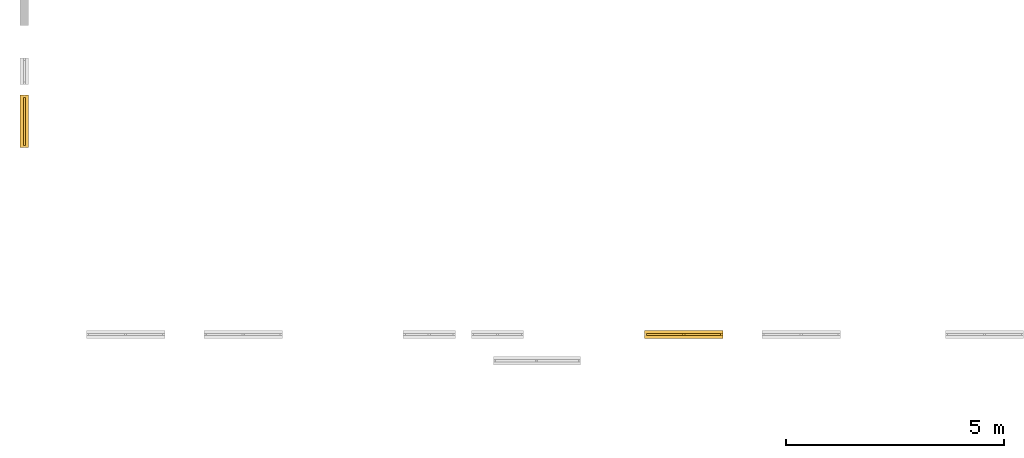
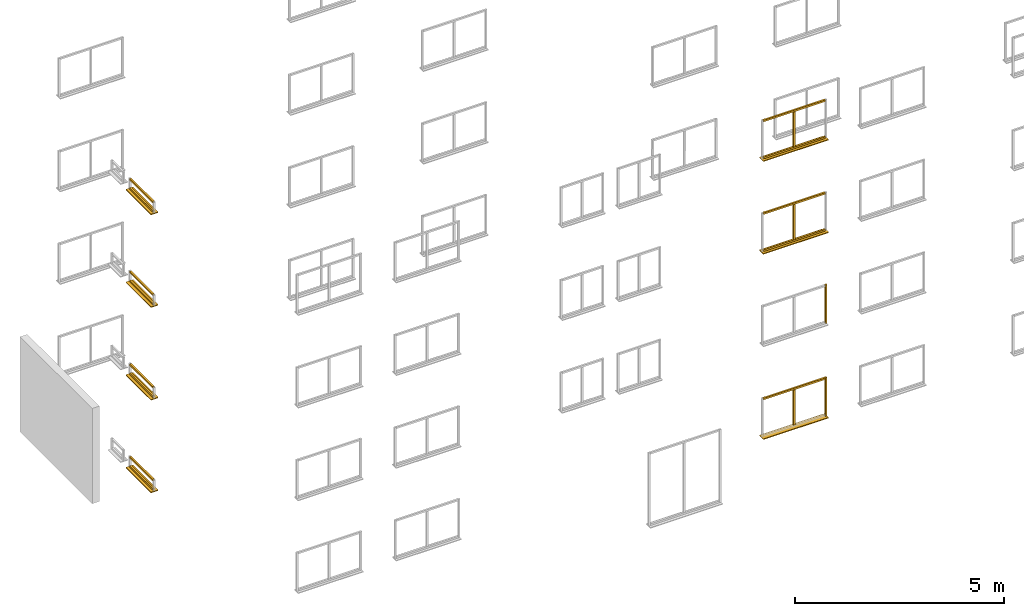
# Not in any storey, part 4 of 22: 25 windows.
"""IFC2X3 model written with IfcOpenShell, lengths in metres."""

import ifcopenshell
import ifcopenshell.guid

model = None  # the IFC model being written
_history = None  # IfcOwnerHistory: only IFC2X3 demands one
_inside = {}  # id of a spatial element -> (the spatial element, [elements in it])
_under = {}  # id of a project, library or spatial element -> (it, [spatial elements below it])
_declared = {}  # id of a project -> (the project, [libraries it declares])
_typed = {}  # id of a type object -> (the type object, [elements of that type])
_made_of = {}  # id of a material, layer set ... -> (it, [elements and type objects made of it])


def new_model(schema):
    """Start an empty IFC model of exactly this schema.

    Asked for "IFC4X3", IfcOpenShell would pick the latest addendum, in which some entities
    have other attributes; the version numbers below select the first issue.
    IFC2X3 requires an IfcOwnerHistory on every rooted entity: one is made here for all.
    """
    global model, _history
    if schema == "IFC4X3":
        model = ifcopenshell.file(schema_version=(4, 3, 0, 0))
    else:
        model = ifcopenshell.file(schema=schema)
    _inside.clear()
    _under.clear()
    _declared.clear()
    _typed.clear()
    _made_of.clear()
    _history = None
    if model.schema == "IFC2X3":
        org = make("IfcOrganization", Name="unknown")
        user = make(
            "IfcPersonAndOrganization",
            ThePerson=make("IfcPerson", FamilyName="unknown"),
            TheOrganization=org,
        )
        app = make(
            "IfcApplication",
            ApplicationDeveloper=org,
            Version="unknown",
            ApplicationFullName="unknown",
            ApplicationIdentifier="unknown",
        )
        _history = make(
            "IfcOwnerHistory",
            OwningUser=user,
            OwningApplication=app,
            ChangeAction="ADDED",
            CreationDate=0,
        )
    return model


def make(cls, **values):
    """One entity of the class cls with the attributes given. An attribute that is None is left unset."""
    return model.create_entity(
        cls, **{name: value for name, value in values.items() if value is not None}
    )


def rooted(cls, **values):
    """An entity with a GlobalId (a new one), such as an element, a storey or a relation."""
    return make(cls, GlobalId=ifcopenshell.guid.new(), OwnerHistory=_history, **values)


def si_unit(unit_type, name, prefix=None):
    """IfcSIUnit, for example si_unit("LENGTHUNIT", "METRE", prefix="MILLI")."""
    return make("IfcSIUnit", UnitType=unit_type, Prefix=prefix, Name=name)


def assignment(units):
    """IfcUnitAssignment: the units of a project."""
    return None if units is None else make("IfcUnitAssignment", Units=units)


def point(xyz):
    """IfcCartesianPoint."""
    return None if xyz is None else make("IfcCartesianPoint", Coordinates=xyz)


def direction(xyz):
    """IfcDirection."""
    return None if xyz is None else make("IfcDirection", DirectionRatios=xyz)


def frame(location, z_axis=None, x_axis=None):
    """IfcAxis2Placement3D, a coordinate frame: its origin and axes. An axis left out is left unset."""
    return make(
        "IfcAxis2Placement3D",
        Location=point(location),
        Axis=direction(z_axis),
        RefDirection=direction(x_axis),
    )


def origin():
    """The frame at (0, 0, 0) with its axes left unset."""
    return frame((0.0, 0.0, 0.0))


def place(relative_to, where):
    """IfcLocalPlacement: puts the frame where relative to a parent placement (None: the world)."""
    return make(
        "IfcLocalPlacement", PlacementRelTo=relative_to, RelativePlacement=where
    )


def context(
    kind, dimensions, precision=None, world=None, true_north=None, identifier=None
):
    """IfcGeometricRepresentationContext, for example the 3D "Model" context."""
    return make(
        "IfcGeometricRepresentationContext",
        ContextIdentifier=identifier,
        ContextType=kind,
        CoordinateSpaceDimension=dimensions,
        Precision=precision,
        WorldCoordinateSystem=world,
        TrueNorth=true_north,
    )


def project(units=None, contexts=None):
    """IfcProject with its units and contexts."""
    return rooted(
        "IfcProject",
        Name="project",
        RepresentationContexts=contexts,
        UnitsInContext=assignment(units),
    )


def faces_of(points, faces, orient=None, outer=None):
    """IfcFace entities. A face is a list of loops; a loop is a list of indices into points, from 0.

    orient and outer hold one flag for each loop. By default every Orientation is true, the
    first loop of a face is its IfcFaceOuterBound and the others are IfcFaceBound.
    """
    made = []
    for i, loops in enumerate(faces):
        bounds = []
        for j, loop in enumerate(loops):
            is_outer = j == 0 if outer is None else outer[i][j]
            bounds.append(
                make(
                    "IfcFaceOuterBound" if is_outer else "IfcFaceBound",
                    Bound=make("IfcPolyLoop", Polygon=[points[k] for k in loop]),
                    Orientation=True if orient is None else orient[i][j],
                )
            )
        made.append(make("IfcFace", Bounds=bounds))
    return made


def faceted_brep(points, faces, orient=None, outer=None, voids=None):
    """IfcFacetedBrep: a solid bounded by flat faces; with voids (closed shells), ...WithVoids."""
    shared = [point(p) for p in points]
    hull = make("IfcClosedShell", CfsFaces=faces_of(shared, faces, orient, outer))
    if voids is None:
        return make("IfcFacetedBrep", Outer=hull)
    return make(
        "IfcFacetedBrepWithVoids",
        Outer=hull,
        Voids=[
            make(cls, CfsFaces=faces_of(shared, fs, o, b)) for cls, fs, o, b in voids
        ],
    )


def shape(context_of_items, identifier, shape_type, items):
    """IfcShapeRepresentation: the items that make up one representation, for example the "Body"."""
    return make(
        "IfcShapeRepresentation",
        ContextOfItems=context_of_items,
        RepresentationIdentifier=identifier,
        RepresentationType=shape_type,
        Items=items,
    )


def made_of(thing, what):
    """Note that an element or type object is made of a material, layer set ...; save() writes the relation."""
    if what is not None:
        _made_of.setdefault(what.id(), (what, []))[1].append(thing)
    return thing


def element(
    cls,
    number,
    at=None,
    inside=None,
    cuts=None,
    type_object=None,
    material=None,
    context=None,
    identifier="Body",
    shape_type=None,
    held_by="IfcProductDefinitionShape",
    body=None,
    shapes=None,
    **own,
):
    """One element of the class cls, such as IfcWall. Its Tag is "e" and its number.

    at: its placement. inside: the storey or other place that contains it. cuts: it is an
    opening in that element (IfcRelVoidsElement). A single representation is given by context,
    identifier, shape_type and body (its items); several are given by shapes. held_by: the class
    of the entity that holds the representations. save() writes the other relations.
    """
    e = rooted(cls, Tag="e%d" % number, ObjectPlacement=at, **own)
    if body is not None:
        shapes = [shape(context, identifier, shape_type, body)]
    if shapes is not None:
        e.Representation = make(held_by, Representations=shapes)
    if inside is not None:
        _inside.setdefault(inside.id(), (inside, []))[1].append(e)
    if cuts is not None:
        rooted(
            "IfcRelVoidsElement", RelatingBuildingElement=cuts, RelatedOpeningElement=e
        )
    if type_object is not None:
        _typed.setdefault(type_object.id(), (type_object, []))[1].append(e)
    return made_of(e, material)


def aggregate(whole, parts):
    """IfcRelAggregates: a whole, such as a stair, and the parts it consists of."""
    return rooted("IfcRelAggregates", RelatingObject=whole, RelatedObjects=parts)


def save(model, path):
    """Write the relations noted so far, then the file.

    IfcRelAggregates (storeys below a building ...), IfcRelContainedInSpatialStructure (elements
    in a storey), IfcRelDefinesByType, IfcRelAssociatesMaterial and IfcRelDeclares: one each for
    every whole, place, type object, material and project.
    """
    for whole, parts in _under.values():
        aggregate(whole, parts)
    for where, things in _inside.values():
        rooted(
            "IfcRelContainedInSpatialStructure",
            RelatedElements=things,
            RelatingStructure=where,
        )
    for kind, things in _typed.values():
        rooted("IfcRelDefinesByType", RelatedObjects=things, RelatingType=kind)
    for what, things in _made_of.values():
        rooted("IfcRelAssociatesMaterial", RelatedObjects=things, RelatingMaterial=what)
    for by, libraries in _declared.values():
        rooted("IfcRelDeclares", RelatingContext=by, RelatedDefinitions=libraries)
    model.write(path)


model = new_model("IFC2X3")

# Units and contexts
model_context = context("Model", 3, precision=1e-06, world=origin())
ifc_project = project(units=[si_unit("LENGTHUNIT", "METRE"), si_unit("PLANEANGLEUNIT", "RADIAN")], contexts=[model_context])

# Windows
placement = place(None, origin())
for number, where, z_axis, x_axis, name in (
    (1, (-0.12500000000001, 5.370077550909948, 1.835), (0.0, 0.0, 1.0), (0.0, -1.0, 0.0), "bottomFrame"),
    (2, (-0.12500000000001, 5.370077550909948, 2.100000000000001), (0.0, 0.0, 1.0), (0.0, -1.0, 0.0), "topFrame"),
):
    element("IfcWindow", number, at=place(placement, frame(where, z_axis=z_axis, x_axis=x_axis)), Name=name, context=model_context, shape_type="Brep", body=[
        faceted_brep([(0.0, 0.05, 0.0), (1.1, 0.05, 0.0), (1.1, 0.0, 0.0), (0.0, 0.0, 0.0), (1.1, 0.0, 0.05), (1.1, 0.05, 0.05), (0.0, 0.05, 0.05), (0.0, 0.0, 0.05), (0.0, 0.05, 0.0), (0.0, 0.0, 0.0), (0.0, 0.0, 0.05), (0.0, 0.05, 0.05), (1.1, 0.05, 0.0), (0.0, 0.05, 0.0), (0.0, 0.05, 0.05), (1.1, 0.05, 0.05), (1.1, 0.0, 0.0), (1.1, 0.05, 0.0), (1.1, 0.05, 0.05), (1.1, 0.0, 0.05), (0.0, 0.0, 0.0), (1.1, 0.0, 0.0), (1.1, 0.0, 0.05), (0.0, 0.0, 0.05)], [[[0, 1, 2, 3]], [[4, 5, 6, 7]], [[8, 9, 10, 11]], [[12, 13, 14, 15]], [[16, 17, 18, 19]], [[20, 21, 22, 23]]]),
    ])
window_1_placement = place(placement, frame((-0.20000000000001, 5.420077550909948, 1.810000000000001), z_axis=(0.0, 0.0, 1.0), x_axis=(0.0, -1.0, 0.0)))
element("IfcWindow", 3, at=window_1_placement, Name="windowSill", context=model_context, shape_type="Brep", body=[
    faceted_brep([(0.0, 0.2, 0.0), (1.2, 0.2, 0.0), (1.2, 0.0, 0.0), (0.0, 0.0, 0.0), (1.2, 0.0, 0.025), (1.2, 0.2, 0.025), (0.0, 0.2, 0.025), (0.0, 0.0, 0.025), (0.0, 0.2, 0.0), (0.0, 0.0, 0.0), (0.0, 0.0, 0.025), (0.0, 0.2, 0.025), (1.2, 0.2, 0.0), (0.0, 0.2, 0.0), (0.0, 0.2, 0.025), (1.2, 0.2, 0.025), (1.2, 0.0, 0.0), (1.2, 0.2, 0.0), (1.2, 0.2, 0.025), (1.2, 0.0, 0.025), (0.0, 0.0, 0.0), (1.2, 0.0, 0.0), (1.2, 0.0, 0.025), (0.0, 0.0, 0.025)], [[[0, 1, 2, 3]], [[4, 5, 6, 7]], [[8, 9, 10, 11]], [[12, 13, 14, 15]], [[16, 17, 18, 19]], [[20, 21, 22, 23]]]),
])
for number, where, z_axis, x_axis, name in (
    (4, (-0.12500000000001, 5.370077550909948, 4.800000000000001), (0.0, 0.0, 1.0), (0.0, -1.0, 0.0), "topFrame"),
    (5, (-0.12500000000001, 5.370077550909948, 4.535000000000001), (0.0, 0.0, 1.0), (0.0, -1.0, 0.0), "bottomFrame"),
    (6, (-0.12500000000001, 5.370077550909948, 7.500000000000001), (0.0, 0.0, 1.0), (0.0, -1.0, 0.0), "topFrame"),
    (7, (-0.12500000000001, 5.370077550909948, 9.935000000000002), (0.0, 0.0, 1.0), (0.0, -1.0, 0.0), "bottomFrame"),
):
    element("IfcWindow", number, at=place(placement, frame(where, z_axis=z_axis, x_axis=x_axis)), Name=name, context=model_context, shape_type="Brep", body=[
        faceted_brep([(0.0, 0.05, 0.0), (1.1, 0.05, 0.0), (1.1, 0.0, 0.0), (0.0, 0.0, 0.0), (1.1, 0.0, 0.05), (1.1, 0.05, 0.05), (0.0, 0.05, 0.05), (0.0, 0.0, 0.05), (0.0, 0.05, 0.0), (0.0, 0.0, 0.0), (0.0, 0.0, 0.05), (0.0, 0.05, 0.05), (1.1, 0.05, 0.0), (0.0, 0.05, 0.0), (0.0, 0.05, 0.05), (1.1, 0.05, 0.05), (1.1, 0.0, 0.0), (1.1, 0.05, 0.0), (1.1, 0.05, 0.05), (1.1, 0.0, 0.05), (0.0, 0.0, 0.0), (1.1, 0.0, 0.0), (1.1, 0.0, 0.05), (0.0, 0.0, 0.05)], [[[0, 1, 2, 3]], [[4, 5, 6, 7]], [[8, 9, 10, 11]], [[12, 13, 14, 15]], [[16, 17, 18, 19]], [[20, 21, 22, 23]]]),
    ])
for number, where, z_axis, x_axis, name in (
    (8, (-0.20000000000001, 5.420077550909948, 7.210000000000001), (0.0, 0.0, 1.0), (0.0, -1.0, 0.0), "windowSill"),
    (9, (-0.20000000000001, 5.420077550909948, 9.910000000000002), (0.0, 0.0, 1.0), (0.0, -1.0, 0.0), "windowSill"),
):
    element("IfcWindow", number, at=place(placement, frame(where, z_axis=z_axis, x_axis=x_axis)), Name=name, context=model_context, shape_type="Brep", body=[
        faceted_brep([(0.0, 0.2, 0.0), (1.2, 0.2, 0.0), (1.2, 0.0, 0.0), (0.0, 0.0, 0.0), (1.2, 0.0, 0.025), (1.2, 0.2, 0.025), (0.0, 0.2, 0.025), (0.0, 0.0, 0.025), (0.0, 0.2, 0.0), (0.0, 0.0, 0.0), (0.0, 0.0, 0.025), (0.0, 0.2, 0.025), (1.2, 0.2, 0.0), (0.0, 0.2, 0.0), (0.0, 0.2, 0.025), (1.2, 0.2, 0.025), (1.2, 0.0, 0.0), (1.2, 0.2, 0.0), (1.2, 0.2, 0.025), (1.2, 0.0, 0.025), (0.0, 0.0, 0.0), (1.2, 0.0, 0.0), (1.2, 0.0, 0.025), (0.0, 0.0, 0.025)], [[[0, 1, 2, 3]], [[4, 5, 6, 7]], [[8, 9, 10, 11]], [[12, 13, 14, 15]], [[16, 17, 18, 19]], [[20, 21, 22, 23]]]),
    ])
window_2_placement = place(placement, frame((-0.12500000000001, 5.370077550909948, 10.200000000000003), z_axis=(0.0, 0.0, 1.0), x_axis=(0.0, -1.0, 0.0)))
element("IfcWindow", 10, at=window_2_placement, Name="topFrame", context=model_context, shape_type="Brep", body=[
    faceted_brep([(0.0, 0.05, 0.0), (1.1, 0.05, 0.0), (1.1, 0.0, 0.0), (0.0, 0.0, 0.0), (1.1, 0.0, 0.05), (1.1, 0.05, 0.05), (0.0, 0.05, 0.05), (0.0, 0.0, 0.05), (0.0, 0.05, 0.0), (0.0, 0.0, 0.0), (0.0, 0.0, 0.05), (0.0, 0.05, 0.05), (1.1, 0.05, 0.0), (0.0, 0.05, 0.0), (0.0, 0.05, 0.05), (1.1, 0.05, 0.05), (1.1, 0.0, 0.0), (1.1, 0.05, 0.0), (1.1, 0.05, 0.05), (1.1, 0.0, 0.05), (0.0, 0.0, 0.0), (1.1, 0.0, 0.0), (1.1, 0.0, 0.05), (0.0, 0.0, 0.05)], [[[0, 1, 2, 3]], [[4, 5, 6, 7]], [[8, 9, 10, 11]], [[12, 13, 14, 15]], [[16, 17, 18, 19]], [[20, 21, 22, 23]]]),
])
window_3_placement = place(placement, frame((-0.20000000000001, 5.420077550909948, 4.510000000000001), z_axis=(0.0, 0.0, 1.0), x_axis=(0.0, -1.0, 0.0)))
element("IfcWindow", 11, at=window_3_placement, Name="windowSill", context=model_context, shape_type="Brep", body=[
    faceted_brep([(0.0, 0.2, 0.0), (1.2, 0.2, 0.0), (1.2, 0.0, 0.0), (0.0, 0.0, 0.0), (1.2, 0.0, 0.025), (1.2, 0.2, 0.025), (0.0, 0.2, 0.025), (0.0, 0.0, 0.025), (0.0, 0.2, 0.0), (0.0, 0.0, 0.0), (0.0, 0.0, 0.025), (0.0, 0.2, 0.025), (1.2, 0.2, 0.0), (0.0, 0.2, 0.0), (0.0, 0.2, 0.025), (1.2, 0.2, 0.025), (1.2, 0.0, 0.0), (1.2, 0.2, 0.0), (1.2, 0.2, 0.025), (1.2, 0.0, 0.025), (0.0, 0.0, 0.0), (1.2, 0.0, 0.0), (1.2, 0.0, 0.025), (0.0, 0.0, 0.025)], [[[0, 1, 2, 3]], [[4, 5, 6, 7]], [[8, 9, 10, 11]], [[12, 13, 14, 15]], [[16, 17, 18, 19]], [[20, 21, 22, 23]]]),
])
window_4_placement = place(placement, frame((-0.12500000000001, 5.370077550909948, 7.235000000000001), z_axis=(0.0, 0.0, 1.0), x_axis=(0.0, -1.0, 0.0)))
element("IfcWindow", 12, at=window_4_placement, Name="bottomFrame", context=model_context, shape_type="Brep", body=[
    faceted_brep([(0.0, 0.05, 0.0), (1.1, 0.05, 0.0), (1.1, 0.0, 0.0), (0.0, 0.0, 0.0), (1.1, 0.0, 0.05), (1.1, 0.05, 0.05), (0.0, 0.05, 0.05), (0.0, 0.0, 0.05), (0.0, 0.05, 0.0), (0.0, 0.0, 0.0), (0.0, 0.0, 0.05), (0.0, 0.05, 0.05), (1.1, 0.05, 0.0), (0.0, 0.05, 0.0), (0.0, 0.05, 0.05), (1.1, 0.05, 0.05), (1.1, 0.0, 0.0), (1.1, 0.05, 0.0), (1.1, 0.05, 0.05), (1.1, 0.0, 0.05), (0.0, 0.0, 0.0), (1.1, 0.0, 0.0), (1.1, 0.0, 0.05), (0.0, 0.0, 0.05)], [[[0, 1, 2, 3]], [[4, 5, 6, 7]], [[8, 9, 10, 11]], [[12, 13, 14, 15]], [[16, 17, 18, 19]], [[20, 21, 22, 23]]]),
])
window_5_placement = place(placement, frame((15.894999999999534, -0.098337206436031, 3.725), z_axis=(0.0, 0.0, 1.0), x_axis=(1.0, 0.0, 0.0)))
element("IfcWindow", 13, at=window_5_placement, Name="rightFrame", context=model_context, shape_type="Brep", body=[
    faceted_brep([(0.0, 0.05, 0.0), (0.05, 0.05, 0.0), (0.05, 0.0, 0.0), (0.0, 0.0, 0.0), (0.05, 0.0, 1.125), (0.05, 0.05, 1.125), (0.0, 0.05, 1.125), (0.0, 0.0, 1.125), (0.0, 0.05, 0.0), (0.0, 0.0, 0.0), (0.0, 0.0, 1.125), (0.0, 0.05, 1.125), (0.05, 0.05, 0.0), (0.0, 0.05, 0.0), (0.0, 0.05, 1.125), (0.05, 0.05, 1.125), (0.05, 0.0, 0.0), (0.05, 0.05, 0.0), (0.05, 0.05, 1.125), (0.05, 0.0, 1.125), (0.0, 0.0, 0.0), (0.05, 0.0, 0.0), (0.05, 0.0, 1.125), (0.0, 0.0, 1.125)], [[[0, 1, 2, 3]], [[4, 5, 6, 7]], [[8, 9, 10, 11]], [[12, 13, 14, 15]], [[16, 17, 18, 19]], [[20, 21, 22, 23]]]),
])
window_6_placement = place(placement, frame((14.194999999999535, -0.098337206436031, 2.1), z_axis=(0.0, 0.0, 1.0), x_axis=(1.0, 0.0, 0.0)))
element("IfcWindow", 14, at=window_6_placement, Name="topFrame", context=model_context, shape_type="Brep", body=[
    faceted_brep([(0.0, 0.05, 0.0), (1.7, 0.05, 0.0), (1.7, 0.0, 0.0), (0.0, 0.0, 0.0), (1.7, 0.0, 0.05), (1.7, 0.05, 0.05), (0.0, 0.05, 0.05), (0.0, 0.0, 0.05), (0.0, 0.05, 0.0), (0.0, 0.0, 0.0), (0.0, 0.0, 0.05), (0.0, 0.05, 0.05), (1.7, 0.05, 0.0), (0.0, 0.05, 0.0), (0.0, 0.05, 0.05), (1.7, 0.05, 0.05), (1.7, 0.0, 0.0), (1.7, 0.05, 0.0), (1.7, 0.05, 0.05), (1.7, 0.0, 0.05), (0.0, 0.0, 0.0), (1.7, 0.0, 0.0), (1.7, 0.0, 0.05), (0.0, 0.0, 0.05)], [[[0, 1, 2, 3]], [[4, 5, 6, 7]], [[8, 9, 10, 11]], [[12, 13, 14, 15]], [[16, 17, 18, 19]], [[20, 21, 22, 23]]]),
])
window_7_placement = place(placement, frame((14.144999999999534, -0.166837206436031, 1.0), z_axis=(0.0, 0.0, 1.0), x_axis=(1.0, 0.0, 0.0)))
element("IfcWindow", 15, at=window_7_placement, Name="windowSill", context=model_context, shape_type="Brep", body=[
    faceted_brep([(0.0, 0.187, 0.0), (1.8, 0.187, 0.0), (1.8, 0.0, 0.0), (0.0, 0.0, 0.0), (1.8, 0.0, 0.025), (1.8, 0.187, 0.025), (0.0, 0.187, 0.025), (0.0, 0.0, 0.025), (0.0, 0.187, 0.0), (0.0, 0.0, 0.0), (0.0, 0.0, 0.025), (0.0, 0.187, 0.025), (1.8, 0.187, 0.0), (0.0, 0.187, 0.0), (0.0, 0.187, 0.025), (1.8, 0.187, 0.025), (1.8, 0.0, 0.0), (1.8, 0.187, 0.0), (1.8, 0.187, 0.025), (1.8, 0.0, 0.025), (0.0, 0.0, 0.0), (1.8, 0.0, 0.0), (1.8, 0.0, 0.025), (0.0, 0.0, 0.025)], [[[0, 1, 2, 3]], [[4, 5, 6, 7]], [[8, 9, 10, 11]], [[12, 13, 14, 15]], [[16, 17, 18, 19]], [[20, 21, 22, 23]]]),
])
window_8_placement = place(placement, frame((15.894999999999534, -0.098337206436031, 1.025), z_axis=(0.0, 0.0, 1.0), x_axis=(1.0, 0.0, 0.0)))
element("IfcWindow", 16, at=window_8_placement, Name="rightFrame", context=model_context, shape_type="Brep", body=[
    faceted_brep([(0.0, 0.05, 0.0), (0.05, 0.05, 0.0), (0.05, 0.0, 0.0), (0.0, 0.0, 0.0), (0.05, 0.0, 1.125), (0.05, 0.05, 1.125), (0.0, 0.05, 1.125), (0.0, 0.0, 1.125), (0.0, 0.05, 0.0), (0.0, 0.0, 0.0), (0.0, 0.0, 1.125), (0.0, 0.05, 1.125), (0.05, 0.05, 0.0), (0.0, 0.05, 0.0), (0.0, 0.05, 1.125), (0.05, 0.05, 1.125), (0.05, 0.0, 0.0), (0.05, 0.05, 0.0), (0.05, 0.05, 1.125), (0.05, 0.0, 1.125), (0.0, 0.0, 0.0), (0.05, 0.0, 0.0), (0.05, 0.0, 1.125), (0.0, 0.0, 1.125)], [[[0, 1, 2, 3]], [[4, 5, 6, 7]], [[8, 9, 10, 11]], [[12, 13, 14, 15]], [[16, 17, 18, 19]], [[20, 21, 22, 23]]]),
])
window_9_placement = place(placement, frame((15.019999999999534, -0.098337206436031, 1.075), z_axis=(0.0, 0.0, 1.0), x_axis=(1.0, 0.0, 0.0)))
element("IfcWindow", 17, at=window_9_placement, Name="verticalBar", context=model_context, shape_type="Brep", body=[
    faceted_brep([(0.0, 0.05, 0.0), (0.05, 0.05, 0.0), (0.05, 0.0, 0.0), (0.0, 0.0, 0.0), (0.05, 0.0, 1.025), (0.05, 0.05, 1.025), (0.0, 0.05, 1.025), (0.0, 0.0, 1.025), (0.0, 0.05, 0.0), (0.0, 0.0, 0.0), (0.0, 0.0, 1.025), (0.0, 0.05, 1.025), (0.05, 0.05, 0.0), (0.0, 0.05, 0.0), (0.0, 0.05, 1.025), (0.05, 0.05, 1.025), (0.05, 0.0, 0.0), (0.05, 0.05, 0.0), (0.05, 0.05, 1.025), (0.05, 0.0, 1.025), (0.0, 0.0, 0.0), (0.05, 0.0, 0.0), (0.05, 0.0, 1.025), (0.0, 0.0, 1.025)], [[[0, 1, 2, 3]], [[4, 5, 6, 7]], [[8, 9, 10, 11]], [[12, 13, 14, 15]], [[16, 17, 18, 19]], [[20, 21, 22, 23]]]),
])
window_10_placement = place(placement, frame((14.194999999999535, -0.098337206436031, 10.200000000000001), z_axis=(0.0, 0.0, 1.0), x_axis=(1.0, 0.0, 0.0)))
element("IfcWindow", 18, at=window_10_placement, Name="topFrame", context=model_context, shape_type="Brep", body=[
    faceted_brep([(0.0, 0.05, 0.0), (1.7, 0.05, 0.0), (1.7, 0.0, 0.0), (0.0, 0.0, 0.0), (1.7, 0.0, 0.05), (1.7, 0.05, 0.05), (0.0, 0.05, 0.05), (0.0, 0.0, 0.05), (0.0, 0.05, 0.0), (0.0, 0.0, 0.0), (0.0, 0.0, 0.05), (0.0, 0.05, 0.05), (1.7, 0.05, 0.0), (0.0, 0.05, 0.0), (0.0, 0.05, 0.05), (1.7, 0.05, 0.05), (1.7, 0.0, 0.0), (1.7, 0.05, 0.0), (1.7, 0.05, 0.05), (1.7, 0.0, 0.05), (0.0, 0.0, 0.0), (1.7, 0.0, 0.0), (1.7, 0.0, 0.05), (0.0, 0.0, 0.05)], [[[0, 1, 2, 3]], [[4, 5, 6, 7]], [[8, 9, 10, 11]], [[12, 13, 14, 15]], [[16, 17, 18, 19]], [[20, 21, 22, 23]]]),
])
window_11_placement = place(placement, frame((14.144999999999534, -0.166837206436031, 9.100000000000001), z_axis=(0.0, 0.0, 1.0), x_axis=(1.0, 0.0, 0.0)))
element("IfcWindow", 19, at=window_11_placement, Name="windowSill", context=model_context, shape_type="Brep", body=[
    faceted_brep([(0.0, 0.187, 0.0), (1.8, 0.187, 0.0), (1.8, 0.0, 0.0), (0.0, 0.0, 0.0), (1.8, 0.0, 0.025), (1.8, 0.187, 0.025), (0.0, 0.187, 0.025), (0.0, 0.0, 0.025), (0.0, 0.187, 0.0), (0.0, 0.0, 0.0), (0.0, 0.0, 0.025), (0.0, 0.187, 0.025), (1.8, 0.187, 0.0), (0.0, 0.187, 0.0), (0.0, 0.187, 0.025), (1.8, 0.187, 0.025), (1.8, 0.0, 0.0), (1.8, 0.187, 0.0), (1.8, 0.187, 0.025), (1.8, 0.0, 0.025), (0.0, 0.0, 0.0), (1.8, 0.0, 0.0), (1.8, 0.0, 0.025), (0.0, 0.0, 0.025)], [[[0, 1, 2, 3]], [[4, 5, 6, 7]], [[8, 9, 10, 11]], [[12, 13, 14, 15]], [[16, 17, 18, 19]], [[20, 21, 22, 23]]]),
])
window_12_placement = place(placement, frame((15.019999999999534, -0.098337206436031, 9.175), z_axis=(0.0, 0.0, 1.0), x_axis=(1.0, 0.0, 0.0)))
element("IfcWindow", 20, at=window_12_placement, Name="verticalBar", context=model_context, shape_type="Brep", body=[
    faceted_brep([(0.0, 0.05, 0.0), (0.05, 0.05, 0.0), (0.05, 0.0, 0.0), (0.0, 0.0, 0.0), (0.05, 0.0, 1.025), (0.05, 0.05, 1.025), (0.0, 0.05, 1.025), (0.0, 0.0, 1.025), (0.0, 0.05, 0.0), (0.0, 0.0, 0.0), (0.0, 0.0, 1.025), (0.0, 0.05, 1.025), (0.05, 0.05, 0.0), (0.0, 0.05, 0.0), (0.0, 0.05, 1.025), (0.05, 0.05, 1.025), (0.05, 0.0, 0.0), (0.05, 0.05, 0.0), (0.05, 0.05, 1.025), (0.05, 0.0, 1.025), (0.0, 0.0, 0.0), (0.05, 0.0, 0.0), (0.05, 0.0, 1.025), (0.0, 0.0, 1.025)], [[[0, 1, 2, 3]], [[4, 5, 6, 7]], [[8, 9, 10, 11]], [[12, 13, 14, 15]], [[16, 17, 18, 19]], [[20, 21, 22, 23]]]),
])
window_13_placement = place(placement, frame((14.194999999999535, -0.098337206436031, 9.125000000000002), z_axis=(0.0, 0.0, 1.0), x_axis=(1.0, 0.0, 0.0)))
element("IfcWindow", 21, at=window_13_placement, Name="bottomFrame", context=model_context, shape_type="Brep", body=[
    faceted_brep([(0.0, 0.05, 0.0), (1.7, 0.05, 0.0), (1.7, 0.0, 0.0), (0.0, 0.0, 0.0), (1.7, 0.0, 0.05), (1.7, 0.05, 0.05), (0.0, 0.05, 0.05), (0.0, 0.0, 0.05), (0.0, 0.05, 0.0), (0.0, 0.0, 0.0), (0.0, 0.0, 0.05), (0.0, 0.05, 0.05), (1.7, 0.05, 0.0), (0.0, 0.05, 0.0), (0.0, 0.05, 0.05), (1.7, 0.05, 0.05), (1.7, 0.0, 0.0), (1.7, 0.05, 0.0), (1.7, 0.05, 0.05), (1.7, 0.0, 0.05), (0.0, 0.0, 0.0), (1.7, 0.0, 0.0), (1.7, 0.0, 0.05), (0.0, 0.0, 0.05)], [[[0, 1, 2, 3]], [[4, 5, 6, 7]], [[8, 9, 10, 11]], [[12, 13, 14, 15]], [[16, 17, 18, 19]], [[20, 21, 22, 23]]]),
])
window_14_placement = place(placement, frame((14.144999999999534, -0.166837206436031, 6.4), z_axis=(0.0, 0.0, 1.0), x_axis=(1.0, 0.0, 0.0)))
element("IfcWindow", 22, at=window_14_placement, Name="windowSill", context=model_context, shape_type="Brep", body=[
    faceted_brep([(0.0, 0.187, 0.0), (1.8, 0.187, 0.0), (1.8, 0.0, 0.0), (0.0, 0.0, 0.0), (1.8, 0.0, 0.025), (1.8, 0.187, 0.025), (0.0, 0.187, 0.025), (0.0, 0.0, 0.025), (0.0, 0.187, 0.0), (0.0, 0.0, 0.0), (0.0, 0.0, 0.025), (0.0, 0.187, 0.025), (1.8, 0.187, 0.0), (0.0, 0.187, 0.0), (0.0, 0.187, 0.025), (1.8, 0.187, 0.025), (1.8, 0.0, 0.0), (1.8, 0.187, 0.0), (1.8, 0.187, 0.025), (1.8, 0.0, 0.025), (0.0, 0.0, 0.0), (1.8, 0.0, 0.0), (1.8, 0.0, 0.025), (0.0, 0.0, 0.025)], [[[0, 1, 2, 3]], [[4, 5, 6, 7]], [[8, 9, 10, 11]], [[12, 13, 14, 15]], [[16, 17, 18, 19]], [[20, 21, 22, 23]]]),
])
window_15_placement = place(placement, frame((14.194999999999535, -0.098337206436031, 6.425000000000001), z_axis=(0.0, 0.0, 1.0), x_axis=(1.0, 0.0, 0.0)))
element("IfcWindow", 23, at=window_15_placement, Name="bottomFrame", context=model_context, shape_type="Brep", body=[
    faceted_brep([(0.0, 0.05, 0.0), (1.7, 0.05, 0.0), (1.7, 0.0, 0.0), (0.0, 0.0, 0.0), (1.7, 0.0, 0.05), (1.7, 0.05, 0.05), (0.0, 0.05, 0.05), (0.0, 0.0, 0.05), (0.0, 0.05, 0.0), (0.0, 0.0, 0.0), (0.0, 0.0, 0.05), (0.0, 0.05, 0.05), (1.7, 0.05, 0.0), (0.0, 0.05, 0.0), (0.0, 0.05, 0.05), (1.7, 0.05, 0.05), (1.7, 0.0, 0.0), (1.7, 0.05, 0.0), (1.7, 0.05, 0.05), (1.7, 0.0, 0.05), (0.0, 0.0, 0.0), (1.7, 0.0, 0.0), (1.7, 0.0, 0.05), (0.0, 0.0, 0.05)], [[[0, 1, 2, 3]], [[4, 5, 6, 7]], [[8, 9, 10, 11]], [[12, 13, 14, 15]], [[16, 17, 18, 19]], [[20, 21, 22, 23]]]),
])
window_16_placement = place(placement, frame((15.019999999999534, -0.098337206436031, 6.475000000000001), z_axis=(0.0, 0.0, 1.0), x_axis=(1.0, 0.0, 0.0)))
element("IfcWindow", 24, at=window_16_placement, Name="verticalBar", context=model_context, shape_type="Brep", body=[
    faceted_brep([(0.0, 0.05, 0.0), (0.05, 0.05, 0.0), (0.05, 0.0, 0.0), (0.0, 0.0, 0.0), (0.05, 0.0, 1.025), (0.05, 0.05, 1.025), (0.0, 0.05, 1.025), (0.0, 0.0, 1.025), (0.0, 0.05, 0.0), (0.0, 0.0, 0.0), (0.0, 0.0, 1.025), (0.0, 0.05, 1.025), (0.05, 0.05, 0.0), (0.0, 0.05, 0.0), (0.0, 0.05, 1.025), (0.05, 0.05, 1.025), (0.05, 0.0, 0.0), (0.05, 0.05, 0.0), (0.05, 0.05, 1.025), (0.05, 0.0, 1.025), (0.0, 0.0, 0.0), (0.05, 0.0, 0.0), (0.05, 0.0, 1.025), (0.0, 0.0, 1.025)], [[[0, 1, 2, 3]], [[4, 5, 6, 7]], [[8, 9, 10, 11]], [[12, 13, 14, 15]], [[16, 17, 18, 19]], [[20, 21, 22, 23]]]),
])
window_17_placement = place(placement, frame((14.194999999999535, -0.098337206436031, 7.5), z_axis=(0.0, 0.0, 1.0), x_axis=(1.0, 0.0, 0.0)))
element("IfcWindow", 25, at=window_17_placement, Name="topFrame", context=model_context, shape_type="Brep", body=[
    faceted_brep([(0.0, 0.05, 0.0), (1.7, 0.05, 0.0), (1.7, 0.0, 0.0), (0.0, 0.0, 0.0), (1.7, 0.0, 0.05), (1.7, 0.05, 0.05), (0.0, 0.05, 0.05), (0.0, 0.0, 0.05), (0.0, 0.05, 0.0), (0.0, 0.0, 0.0), (0.0, 0.0, 0.05), (0.0, 0.05, 0.05), (1.7, 0.05, 0.0), (0.0, 0.05, 0.0), (0.0, 0.05, 0.05), (1.7, 0.05, 0.05), (1.7, 0.0, 0.0), (1.7, 0.05, 0.0), (1.7, 0.05, 0.05), (1.7, 0.0, 0.05), (0.0, 0.0, 0.0), (1.7, 0.0, 0.0), (1.7, 0.0, 0.05), (0.0, 0.0, 0.05)], [[[0, 1, 2, 3]], [[4, 5, 6, 7]], [[8, 9, 10, 11]], [[12, 13, 14, 15]], [[16, 17, 18, 19]], [[20, 21, 22, 23]]]),
])

save(model, "model.ifc")
